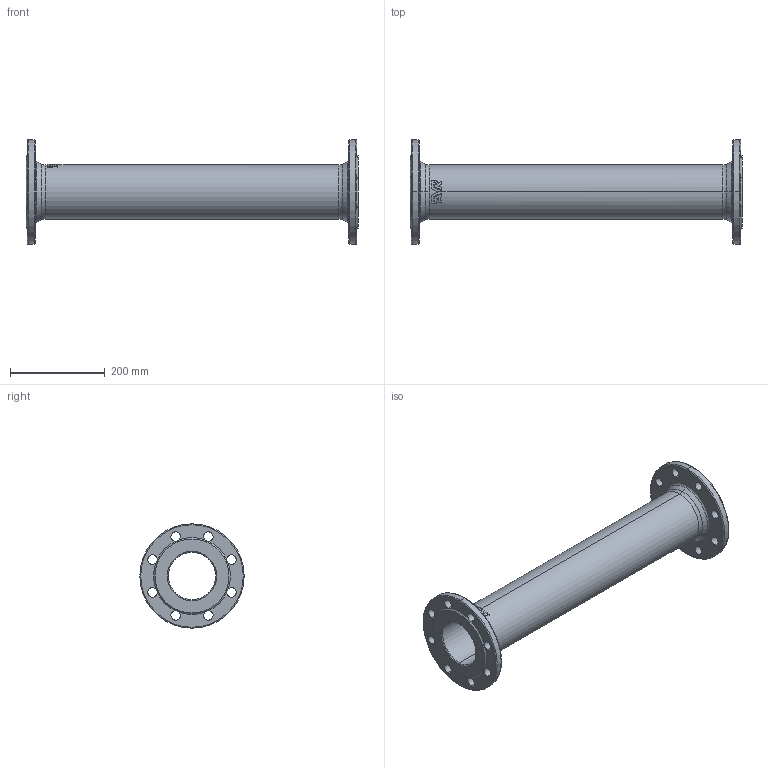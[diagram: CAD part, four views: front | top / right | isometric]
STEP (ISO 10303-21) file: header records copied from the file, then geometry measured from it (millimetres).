
FILE_DESCRIPTION (( 'STEP AP203' ), '1' );
FILE_NAME ('O_712_5010_DN100_1X_REV01.step', '2021-12-03T09:31:47', ( '' ), ( '' ), 'SwSTEP 2.0', 'SolidWorks 2019', '' );
FILE_SCHEMA (( 'CONFIG_CONTROL_DESIGN' ));
Length unit declared in the file: millimetre
Products named in the file (1): O_712_5010_DN100_1X_REV01
Bounding box: 700 x 220 x 220 mm (x, y, z)
Volume: 2565761.6 mm3; surface area: 595237.5 mm2
Topology: 1 solids, 1 shells, 116 faces, 345 edges, 222 vertices
Faces by surface type: cylinder 45, bspline 23, plane 20, torus 16, cone 12
Entity records: 5125 total; most frequent: CARTESIAN_POINT 2050, ORIENTED_EDGE 690, DIRECTION 568, EDGE_CURVE 345, AXIS2_PLACEMENT_3D 246, VERTEX_POINT 222, CIRCLE 152, EDGE_LOOP 141
